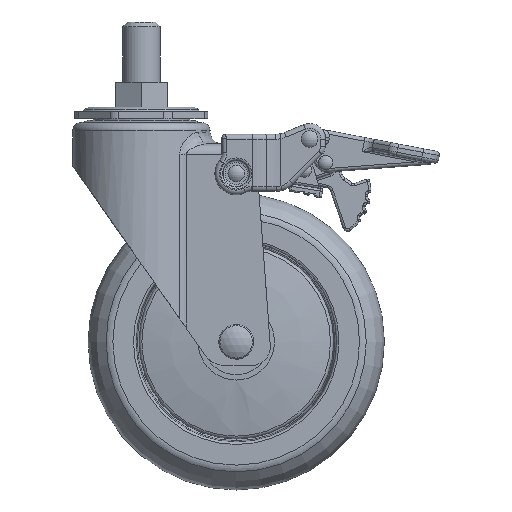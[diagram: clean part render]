
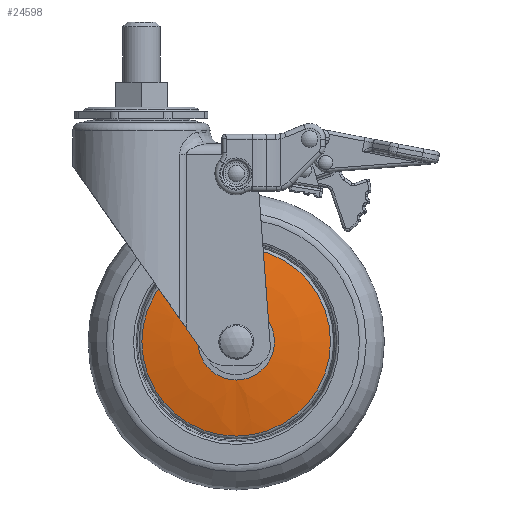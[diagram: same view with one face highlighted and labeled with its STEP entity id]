
A CAD part, front view. The second image highlights one B-rep face of the part: STEP entity #24598.
In plain terms, the highlighted free-form (B-spline) face has degree [2, 2] with [3, 9] control points.
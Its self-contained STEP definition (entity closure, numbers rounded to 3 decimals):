
#21=(
BOUNDED_CURVE()
B_SPLINE_CURVE(2,(#46270,#46271,#46272),.UNSPECIFIED.,.F.,.F.)
B_SPLINE_CURVE_WITH_KNOTS((3,3),(1.358,1.496),
 .UNSPECIFIED.)
CURVE()
GEOMETRIC_REPRESENTATION_ITEM()
RATIONAL_B_SPLINE_CURVE((1.,0.998,1.))
REPRESENTATION_ITEM('')
);
#131=(
BOUNDED_SURFACE()
B_SPLINE_SURFACE(2,2,((#46239,#46240,#46241,#46242,#46243,#46244,#46245,
#46246,#46247),(#46248,#46249,#46250,#46251,#46252,#46253,#46254,#46255,
#46256),(#46257,#46258,#46259,#46260,#46261,#46262,#46263,#46264,#46265)),
 .UNSPECIFIED.,.F.,.T.,.F.)
B_SPLINE_SURFACE_WITH_KNOTS((3,3),(3,2,2,2,3),(-1.496,-1.358),
(-3.142,-1.571,0.,1.571,3.142),
 .UNSPECIFIED.)
GEOMETRIC_REPRESENTATION_ITEM()
RATIONAL_B_SPLINE_SURFACE(((1.,0.707,1.,0.707,1.,
0.707,1.,0.707,1.),(0.998,0.705,
0.998,0.705,0.998,0.705,0.998,
0.705,0.998),(1.,0.707,1.,0.707,
1.,0.707,1.,0.707,1.)))
REPRESENTATION_ITEM('')
SURFACE()
);
#5892=FACE_OUTER_BOUND('',#7591,.T.);
#7591=EDGE_LOOP('',(#20553,#20554,#20555,#20556,#20557,#20558));
#9484=CIRCLE('',#27322,16.136);
#9485=CIRCLE('',#27323,16.136);
#9486=CIRCLE('',#27324,39.788);
#9487=CIRCLE('',#27325,39.788);
#11449=VERTEX_POINT('',#46232);
#11450=VERTEX_POINT('',#46233);
#11451=VERTEX_POINT('',#46266);
#11452=VERTEX_POINT('',#46267);
#14606=EDGE_CURVE('',#11449,#11450,#9484,.T.);
#14607=EDGE_CURVE('',#11450,#11449,#9485,.T.);
#14609=EDGE_CURVE('',#11451,#11452,#9486,.T.);
#14610=EDGE_CURVE('',#11452,#11451,#9487,.T.);
#14611=EDGE_CURVE('',#11452,#11450,#21,.T.);
#20553=ORIENTED_EDGE('',*,*,#14609,.F.);
#20554=ORIENTED_EDGE('',*,*,#14610,.F.);
#20555=ORIENTED_EDGE('',*,*,#14611,.T.);
#20556=ORIENTED_EDGE('',*,*,#14607,.T.);
#20557=ORIENTED_EDGE('',*,*,#14606,.T.);
#20558=ORIENTED_EDGE('',*,*,#14611,.F.);
#24598=ADVANCED_FACE('',(#5892),#131,.F.);
#27322=AXIS2_PLACEMENT_3D('',#46234,#33703,#33704);
#27323=AXIS2_PLACEMENT_3D('',#46235,#33705,#33706);
#27324=AXIS2_PLACEMENT_3D('',#46268,#33707,#33708);
#27325=AXIS2_PLACEMENT_3D('',#46269,#33709,#33710);
#33703=DIRECTION('center_axis',(0.,1.,0.));
#33704=DIRECTION('ref_axis',(1.,0.,0.));
#33705=DIRECTION('center_axis',(0.,1.,0.));
#33706=DIRECTION('ref_axis',(1.,0.,0.));
#33707=DIRECTION('center_axis',(0.,1.,0.));
#33708=DIRECTION('ref_axis',(1.,0.,0.));
#33709=DIRECTION('center_axis',(0.,1.,0.));
#33710=DIRECTION('ref_axis',(1.,0.,0.));
#46232=CARTESIAN_POINT('',(19.37,43.008,-78.114));
#46233=CARTESIAN_POINT('',(19.37,43.008,-110.386));
#46234=CARTESIAN_POINT('Origin',(19.37,43.008,-94.25));
#46235=CARTESIAN_POINT('Origin',(19.37,43.008,-94.25));
#46239=CARTESIAN_POINT('Ctrl Pts',(19.37,43.008,-110.386));
#46240=CARTESIAN_POINT('Ctrl Pts',(3.234,43.008,-110.386));
#46241=CARTESIAN_POINT('Ctrl Pts',(3.234,43.008,-94.25));
#46242=CARTESIAN_POINT('Ctrl Pts',(3.234,43.008,-78.114));
#46243=CARTESIAN_POINT('Ctrl Pts',(19.37,43.008,-78.114));
#46244=CARTESIAN_POINT('Ctrl Pts',(35.505,43.008,-78.114));
#46245=CARTESIAN_POINT('Ctrl Pts',(35.505,43.008,-94.25));
#46246=CARTESIAN_POINT('Ctrl Pts',(35.505,43.008,-110.386));
#46247=CARTESIAN_POINT('Ctrl Pts',(19.37,43.008,-110.386));
#46248=CARTESIAN_POINT('Ctrl Pts',(19.37,43.898,-122.33));
#46249=CARTESIAN_POINT('Ctrl Pts',(-8.71,43.898,-122.33));
#46250=CARTESIAN_POINT('Ctrl Pts',(-8.71,43.898,-94.25));
#46251=CARTESIAN_POINT('Ctrl Pts',(-8.71,43.898,-66.17));
#46252=CARTESIAN_POINT('Ctrl Pts',(19.37,43.898,-66.17));
#46253=CARTESIAN_POINT('Ctrl Pts',(47.45,43.898,-66.17));
#46254=CARTESIAN_POINT('Ctrl Pts',(47.45,43.898,-94.25));
#46255=CARTESIAN_POINT('Ctrl Pts',(47.45,43.898,-122.33));
#46256=CARTESIAN_POINT('Ctrl Pts',(19.37,43.898,-122.33));
#46257=CARTESIAN_POINT('Ctrl Pts',(19.37,46.424,-134.038));
#46258=CARTESIAN_POINT('Ctrl Pts',(-20.418,46.424,-134.038));
#46259=CARTESIAN_POINT('Ctrl Pts',(-20.418,46.424,-94.25));
#46260=CARTESIAN_POINT('Ctrl Pts',(-20.418,46.424,-54.462));
#46261=CARTESIAN_POINT('Ctrl Pts',(19.37,46.424,-54.462));
#46262=CARTESIAN_POINT('Ctrl Pts',(59.158,46.424,-54.462));
#46263=CARTESIAN_POINT('Ctrl Pts',(59.158,46.424,-94.25));
#46264=CARTESIAN_POINT('Ctrl Pts',(59.158,46.424,-134.038));
#46265=CARTESIAN_POINT('Ctrl Pts',(19.37,46.424,-134.038));
#46266=CARTESIAN_POINT('',(19.37,46.424,-54.462));
#46267=CARTESIAN_POINT('',(19.37,46.424,-134.038));
#46268=CARTESIAN_POINT('Origin',(19.37,46.424,-94.25));
#46269=CARTESIAN_POINT('Origin',(19.37,46.424,-94.25));
#46270=CARTESIAN_POINT('Ctrl Pts',(19.37,46.424,-134.038));
#46271=CARTESIAN_POINT('Ctrl Pts',(19.37,43.898,-122.33));
#46272=CARTESIAN_POINT('Ctrl Pts',(19.37,43.008,-110.386));
